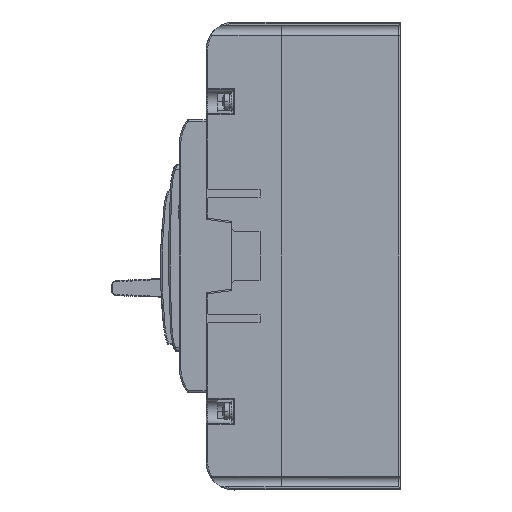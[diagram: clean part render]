
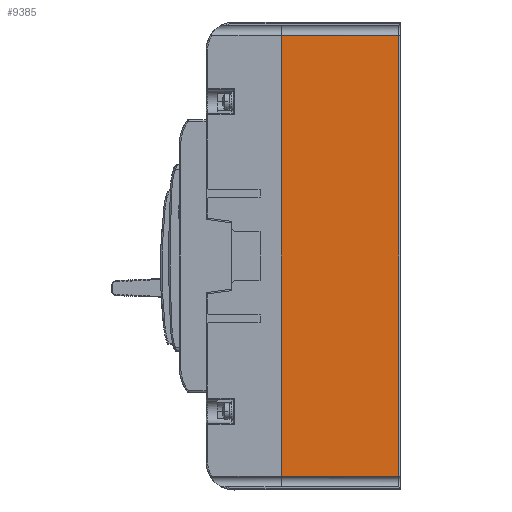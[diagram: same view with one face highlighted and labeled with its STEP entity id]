
A CAD part, left-side view. The second image highlights one B-rep face of the part: STEP entity #9385.
In plain terms, the highlighted planar face has unit normal (-1, 0, 0).
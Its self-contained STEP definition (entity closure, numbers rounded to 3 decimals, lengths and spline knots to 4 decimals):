
#1591=CARTESIAN_POINT('',(-2.1063,-1.1535,
3.1555));
#1608=DIRECTION('',(0.,0.,1.));
#1609=VECTOR('',#1608,6.1142);
#1610=CARTESIAN_POINT('',(-2.1063,-1.1535,
-2.9587));
#1611=LINE('',#1610,#1609);
#1624=DIRECTION('',(0.,0.,1.));
#1625=VECTOR('',#1624,6.1142);
#1626=CARTESIAN_POINT('',(-2.1063,0.4803,
-2.9587));
#1627=LINE('',#1626,#1625);
#1642=DIRECTION('',(0.,-1.,0.));
#1643=VECTOR('',#1642,1.6339);
#1644=CARTESIAN_POINT('',(-2.1063,0.4803,
-2.9587));
#1645=LINE('',#1644,#1643);
#3347=DIRECTION('',(0.,1.,0.));
#3348=VECTOR('',#3347,1.6339);
#3349=CARTESIAN_POINT('',(-2.1063,-1.1535,
3.1555));
#3350=LINE('',#3349,#3348);
#6942=CARTESIAN_POINT('',(-2.1063,0.4803,
3.1555));
#6943=VERTEX_POINT('',#6942);
#6944=CARTESIAN_POINT('',(-2.1063,0.4803,
-2.9587));
#6945=VERTEX_POINT('',#6944);
#7773=VERTEX_POINT('',#1591);
#7778=CARTESIAN_POINT('',(-2.1063,-1.1535,
-2.9587));
#7779=VERTEX_POINT('',#7778);
#9371=CARTESIAN_POINT('',(-2.1063,-1.1732,
-3.1496));
#9372=DIRECTION('',(-1.,0.,0.));
#9373=DIRECTION('',(0.,0.,1.));
#9374=AXIS2_PLACEMENT_3D('',#9371,#9372,#9373);
#9375=PLANE('',#9374);
#9376=ORIENTED_EDGE('',*,*,#9362,.F.);
#9378=ORIENTED_EDGE('',*,*,#9377,.F.);
#9380=ORIENTED_EDGE('',*,*,#9379,.T.);
#9382=ORIENTED_EDGE('',*,*,#9381,.F.);
#9383=EDGE_LOOP('',(#9376,#9378,#9380,#9382));
#9384=FACE_OUTER_BOUND('',#9383,.F.);
#9385=ADVANCED_FACE('',(#9384),#9375,.T.);
#9362=EDGE_CURVE('',#7779,#7773,#1611,.T.);
#9377=EDGE_CURVE('',#6945,#7779,#1645,.T.);
#9379=EDGE_CURVE('',#6945,#6943,#1627,.T.);
#9381=EDGE_CURVE('',#7773,#6943,#3350,.T.);
